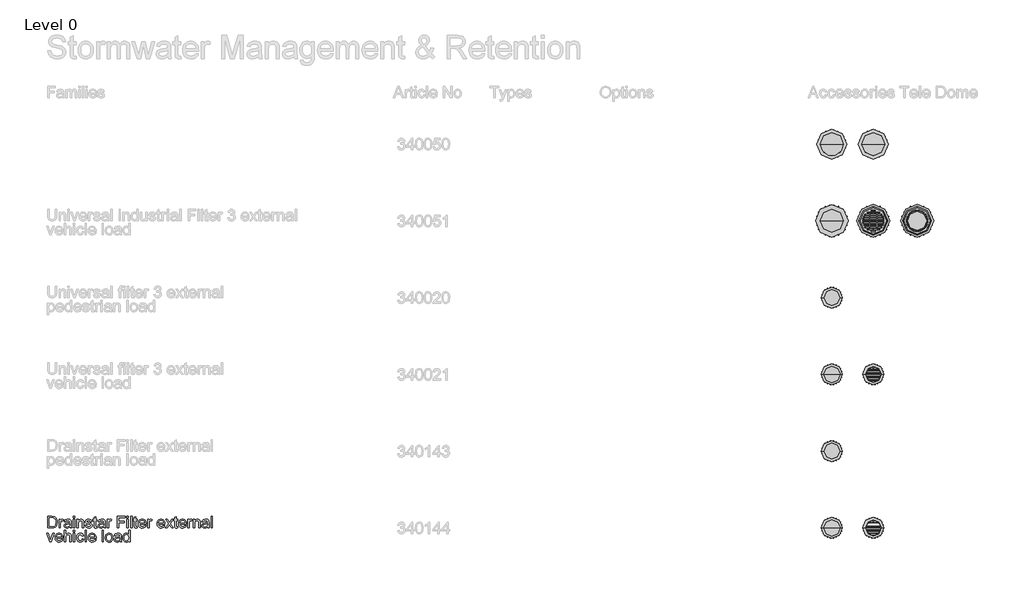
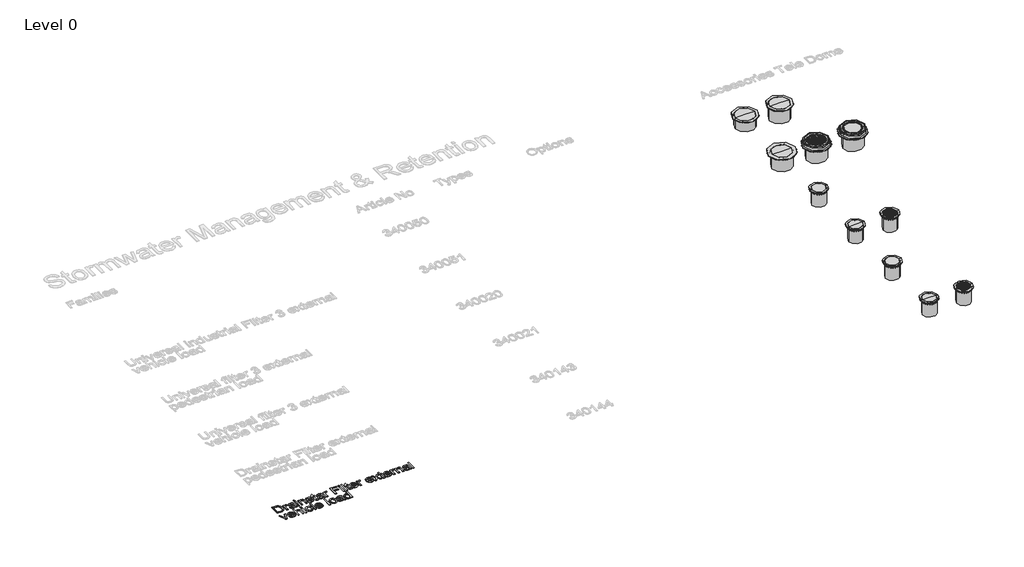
# One storey, part 1 of 10: 12 proxies.
"""IFC4 building model written with IfcOpenShell, lengths in millimetres."""

from ifc_helpers import new_model, si_unit, origin, origin_with_axes, place, context, project, spatial, polyline, outline, extrude, transform, mapped, element, save
from components import specialty_equipment_9f4d5454, proxy_600_mini_f4d43cd5, dome_600_vehicle_504724ee, infiltration_shaft_7ea02f98, tele_dome_400_class_slotted_cast_iron_ae01a707, tele_dome_400_pedestrian_load_5ff1a92a, tele_dome_400_vehicle_8fc43494, ventilation_shaft_vehicle_b4d13a4b

model = new_model("IFC4")

# Units and contexts
model_context = context("Model", 3, world=origin())
ifc_project = project(units=[si_unit("LENGTHUNIT", "METRE", prefix="MILLI")], contexts=[model_context])

# Site, building, storey
site = spatial("IfcSite", under=ifc_project)
building = spatial("IfcBuilding", under=site)
storey = spatial("IfcBuildingStorey", under=building, Name="Level 0", Elevation=0.0)

# Proxies
placement = place(None, origin())
specialty_equipment_shape = specialty_equipment_9f4d5454(model_context)
element("IfcBuildingElementProxy", 1, Name="GRAF Tele Dome 600 Maxi : 600 Maxi", ObjectType="GRAF Tele Dome 600 Maxi : 600 Maxi", at=placement, inside=storey, context=model_context, shape_type="MappedRepresentation", body=[
    mapped(specialty_equipment_shape, transform((6129.8252264, 10427.0720402, 0.0), x_axis=(1.0, 0.0, 0.0), y_axis=(0.0, 1.0, 0.0), z_axis=(0.0, 0.0, 1.0))),
])
element("IfcBuildingElementProxy", 2, Name="300mm Arial", ObjectType="300mm Arial", at=placement, inside=storey, context=model_context, shape_type="SweptSolid", body=[
    extrude(outline(polyline([(-15382.3152979, 427.0720402), (-15382.3152979, 728.4409706), (-15278.3518461, 728.4409706), (-15224.5674984, 724.0999631), (-15200.5448041, 715.7306477), (-15180.2745062, 702.5420782), (-15159.4339912, 679.5862417), (-15144.5899527, 651.0385989), (-15135.7056025, 617.4509727), (-15132.7441524, 579.3751862), (-15134.7491093, 547.0291618), (-15140.7639799, 518.5642924), (-15149.9242416, 494.330066), (-15161.3653716, 474.6759704), (-15174.5355471, 459.1605472), (-15188.8829449, 447.3423381), (-15205.3548612, 438.5775496), (-15224.8985922, 432.2223881), (-15273.348651, 427.0720402), (-15382.3152979, 427.0720402)]), holes=[polyline([(-15344.6441816, 464.7431565), (-15277.9839641, 464.7431565), (-15250.4112086, 466.1043199), (-15229.4971172, 470.18781), (-15213.7149796, 476.7545036), (-15201.5380855, 485.5652774), (-15188.4506835, 501.8716469), (-15178.6190372, 522.9788763), (-15172.4662108, 548.9789363), (-15170.4152687, 579.9637974), (-15174.4343795, 621.0194281), (-15186.4917119, 651.3329045), (-15204.3063975, 672.1550254), (-15225.597568, 684.7365896), (-15247.2658175, 689.2615382), (-15279.0140337, 690.7698543), (-15344.6441816, 690.7698543), (-15344.6441816, 464.7431565)])]), origin_with_axes(), (0.0, 0.0, 1.0), 10.0),
    extrude(outline(polyline([(-15085.655257, 427.0720402), (-15085.655257, 648.3898485), (-15052.6930303, 648.3898485), (-15052.6930303, 615.6483509), (-15040.5161362, 634.6310619), (-15029.2957354, 645.8146745), (-15018.0385463, 651.2777222), (-15005.7512877, 653.098738), (-14986.9893059, 650.1924703), (-14967.9330186, 641.473667), (-14980.5145828, 607.7020998), (-14993.7583346, 613.4962413), (-15007.0020865, 615.4276217), (-15018.2500785, 613.5698177), (-15028.302454, 607.9964054), (-15036.423449, 599.1304493), (-15041.8772996, 587.3950137), (-15046.4574305, 566.3521636), (-15047.9841407, 543.3963271), (-15047.9841407, 427.0720402), (-15085.655257, 427.0720402)])), origin_with_axes(), (0.0, 0.0, 1.0), 10.0),
    extrude(outline(polyline([(-14803.1218847, 455.3253774), (-14821.1205114, 439.8927277), (-14839.6525669, 429.794367), (-14859.1411156, 424.2209547), (-14880.0092217, 422.3631507), (-14911.4907235, 426.8329169), (-14934.7132744, 440.2422156), (-14949.0330811, 460.6044841), (-14953.80635, 485.9331594), (-14952.0037282, 501.5497501), (-14946.5958629, 515.731601), (-14938.2541386, 527.8717069), (-14927.6499401, 537.3630624), (-14901.2728011, 549.7238974), (-14868.6784563, 555.3892801), (-14830.1612114, 561.3489684), (-14803.3426139, 568.3387263), (-14803.1218847, 576.7264358), (-14805.7154528, 593.538643), (-14813.496157, 604.5383147), (-14830.8969754, 612.705295), (-14855.1403989, 615.4276217), (-14877.5812006, 613.6158029), (-14893.2529736, 608.1803464), (-14903.9399455, 598.1279709), (-14911.4263441, 582.465395), (-14949.0974604, 587.1742845), (-14942.558358, 607.7756762), (-14932.800288, 623.962484), (-14918.9127427, 636.3417132), (-14899.9852141, 645.5203689), (-14876.8362395, 651.2041458), (-14850.2843565, 653.098738), (-14824.8177254, 651.424875), (-14804.6302009, 646.4032857), (-14789.4090834, 638.8525078), (-14778.8416731, 629.5910785), (-14771.8335211, 618.1407514), (-14767.2901784, 604.0232799), (-14765.4507684, 571.0610531), (-14765.4507684, 524.1928869), (-14763.5377821, 458.74668), (-14756.0329894, 427.0720402), (-14793.7041057, 427.0720402), (-14803.1218847, 455.3253774)]), holes=[polyline([(-14803.1218847, 530.66761), (-14863.8959903, 519.1161154), (-14896.3063941, 513.0092743), (-14910.9848857, 503.0764604), (-14916.1352337, 488.5819098), (-14913.3301334, 477.379903), (-14904.9148328, 468.2012473), (-14891.0732727, 462.076012), (-14871.9893942, 460.034267), (-14851.7558845, 462.2875442), (-14833.8768195, 469.0473758), (-14819.3822689, 479.0077809), (-14809.3023023, 490.8627782), (-14804.832536, 503.0764604), (-14803.3426139, 519.9990322), (-14803.1218847, 530.66761)])]), origin_with_axes(), (0.0, 0.0, 1.0), 10.0),
    extrude(outline(polyline([(-14713.6529835, 690.7698543), (-14713.6529835, 728.4409706), (-14675.9818672, 728.4409706), (-14675.9818672, 690.7698543), (-14713.6529835, 690.7698543)])), origin_with_axes(), (0.0, 0.0, 1.0), 10.0),
    extrude(outline(polyline([(-14713.6529835, 427.0720402), (-14713.6529835, 648.3898485), (-14675.9818672, 648.3898485), (-14675.9818672, 427.0720402), (-14713.6529835, 427.0720402)])), origin_with_axes(), (0.0, 0.0, 1.0), 10.0),
    extrude(outline(polyline([(-14619.4751927, 427.0720402), (-14619.4751927, 648.3898485), (-14581.8040764, 648.3898485), (-14581.8040764, 617.4877609), (-14568.7166745, 633.0675634), (-14552.9989162, 644.1959938), (-14534.6508017, 650.873052), (-14513.6723309, 653.098738), (-14495.1034872, 651.3053133), (-14478.098142, 645.9250391), (-14463.9162911, 637.6293001), (-14453.8179303, 627.089481), (-14442.5239531, 599.3879667), (-14440.5373903, 562.9676492), (-14440.5373903, 427.0720402), (-14478.2085066, 427.0720402), (-14478.2085066, 557.8908777), (-14482.5495141, 591.2209864), (-14488.5551877, 601.1446033), (-14497.8901933, 608.842534), (-14509.8555552, 613.7813498), (-14523.7522976, 615.4276217), (-14545.8160203, 611.7304077), (-14564.6239873, 600.6387655), (-14572.1402763, 591.5842699), (-14577.5090541, 579.2096393), (-14581.8040764, 544.4999731), (-14581.8040764, 427.0720402), (-14619.4751927, 427.0720402)])), origin_with_axes(), (0.0, 0.0, 1.0), 10.0),
    extrude(outline(polyline([(-14402.866274, 492.9964937), (-14365.1951577, 497.7053833), (-14359.2538635, 481.5921519), (-14347.7575511, 469.7463516), (-14330.6326442, 462.4622881), (-14307.8055664, 460.034267), (-14285.2544001, 462.259953), (-14269.3986861, 468.9370112), (-14260.0176953, 478.6123077), (-14256.8906983, 489.8327086), (-14260.0360894, 499.4344286), (-14269.4722625, 506.7552804), (-14308.2470248, 517.4974346), (-14364.9744285, 535.9283226), (-14379.3310233, 545.1897518), (-14389.7328868, 557.4494193), (-14396.05126, 571.9255758), (-14398.1573845, 587.8364721), (-14396.4651273, 602.4321902), (-14391.3883557, 615.9058683), (-14383.3869223, 627.7240774), (-14372.9206796, 637.3533886), (-14348.9715617, 648.5002131), (-14316.5611579, 653.098738), (-14292.0418229, 651.250131), (-14270.7230613, 645.7043099), (-14253.5797603, 637.0039007), (-14241.5868073, 625.6915294), (-14233.6405562, 610.9302643), (-14228.6373611, 591.883174), (-14266.3084774, 587.1742845), (-14271.0633522, 599.0292818), (-14280.4719342, 607.9596172), (-14294.626194, 613.5606206), (-14313.618102, 615.4276217), (-14335.2495633, 613.6433941), (-14349.6705375, 608.290711), (-14357.7823355, 600.5651891), (-14360.4862681, 591.6624448), (-14355.9981078, 580.6995614), (-14341.9450156, 572.3854283), (-14309.4978236, 564.3656008), (-14254.2051597, 546.6336886), (-14239.6002445, 538.1540086), (-14228.5269965, 526.5473317), (-14221.5464356, 511.7768696), (-14219.219582, 493.8058341), (-14221.9511058, 475.2277934), (-14230.1456773, 457.7533986), (-14243.4905966, 442.7530102), (-14261.6731642, 431.5969887), (-14283.6357194, 424.6716102), (-14308.3206012, 422.3631507), (-14346.3044172, 426.8145228), (-14374.0243256, 440.1686392), (-14392.5287899, 462.2783471), (-14402.866274, 492.9964937)])), origin_with_axes(), (0.0, 0.0, 1.0), 10.0),
    extrude(outline(polyline([(-14096.788454, 458.4891626), (-14092.0795645, 425.9683942), (-14120.2593253, 422.3631507), (-14138.3407254, 423.9266491), (-14151.8236005, 428.6171446), (-14161.3517442, 435.8460258), (-14167.5689499, 445.0246816), (-14170.9902524, 460.7884251), (-14172.1306866, 487.7725694), (-14172.1306866, 610.7187322), (-14200.3840238, 610.7187322), (-14200.3840238, 648.3898485), (-14172.1306866, 648.3898485), (-14172.1306866, 702.1741962), (-14134.4595703, 724.3206923), (-14134.4595703, 648.3898485), (-14096.788454, 648.3898485), (-14096.788454, 610.7187322), (-14134.4595703, 610.7187322), (-14134.4595703, 488.8762154), (-14132.4730075, 469.452046), (-14126.0350726, 462.5726527), (-14113.195991, 460.034267), (-14096.788454, 458.4891626)])), origin_with_axes(), (0.0, 0.0, 1.0), 10.0),
    extrude(outline(polyline([(-13917.8506515, 455.3253774), (-13935.8492782, 439.8927277), (-13954.3813337, 429.794367), (-13973.8698824, 424.2209547), (-13994.7379885, 422.3631507), (-14026.2194903, 426.8329169), (-14049.4420412, 440.2422156), (-14063.7618479, 460.6044841), (-14068.5351168, 485.9331594), (-14066.732495, 501.5497501), (-14061.3246297, 515.731601), (-14052.9829054, 527.8717069), (-14042.3787069, 537.3630624), (-14016.0015679, 549.7238974), (-13983.4072231, 555.3892801), (-13944.8899782, 561.3489684), (-13918.0713807, 568.3387263), (-13917.8506515, 576.7264358), (-13920.4442196, 593.538643), (-13928.2249238, 604.5383147), (-13945.6257422, 612.705295), (-13969.8691657, 615.4276217), (-13992.3099674, 613.6158029), (-14007.9817404, 608.1803464), (-14018.6687123, 598.1279709), (-14026.1551109, 582.465395), (-14063.8262272, 587.1742845), (-14057.2871248, 607.7756762), (-14047.5290548, 623.962484), (-14033.6415095, 636.3417132), (-14014.7139809, 645.5203689), (-13991.5650063, 651.2041458), (-13965.0131233, 653.098738), (-13939.5464922, 651.424875), (-13919.3589677, 646.4032857), (-13904.1378502, 638.8525078), (-13893.5704399, 629.5910785), (-13886.5622879, 618.1407514), (-13882.0189452, 604.0232799), (-13880.1795352, 571.0610531), (-13880.1795352, 524.1928869), (-13878.2665489, 458.74668), (-13870.7617562, 427.0720402), (-13908.4328725, 427.0720402), (-13917.8506515, 455.3253774)]), holes=[polyline([(-13917.8506515, 530.66761), (-13978.6247572, 519.1161154), (-14011.0351609, 513.0092743), (-14025.7136525, 503.0764604), (-14030.8640005, 488.5819098), (-14028.0589003, 477.379903), (-14019.6435996, 468.2012473), (-14005.8020395, 462.076012), (-13986.718161, 460.034267), (-13966.4846513, 462.2875442), (-13948.6055863, 469.0473758), (-13934.1110357, 479.0077809), (-13924.0310691, 490.8627782), (-13919.5613028, 503.0764604), (-13918.0713807, 519.9990322), (-13917.8506515, 530.66761)])]), origin_with_axes(), (0.0, 0.0, 1.0), 10.0),
    extrude(outline(polyline([(-13828.3817503, 427.0720402), (-13828.3817503, 648.3898485), (-13795.4195236, 648.3898485), (-13795.4195236, 615.6483509), (-13783.2426295, 634.6310619), (-13772.0222287, 645.8146745), (-13760.7650396, 651.2777222), (-13748.477781, 653.098738), (-13729.7157992, 650.1924703), (-13710.6595119, 641.473667), (-13723.2410761, 607.7020998), (-13736.4848279, 613.4962413), (-13749.7285798, 615.4276217), (-13760.9765718, 613.5698177), (-13771.0289473, 607.9964054), (-13779.1499423, 599.1304493), (-13784.6037929, 587.3950137), (-13789.1839237, 566.3521636), (-13790.710634, 543.3963271), (-13790.710634, 427.0720402), (-13828.3817503, 427.0720402)])), origin_with_axes(), (0.0, 0.0, 1.0), 10.0),
    extrude(outline(polyline([(-13564.6839362, 427.0720402), (-13564.6839362, 728.4409706), (-13362.201686, 728.4409706), (-13362.201686, 690.7698543), (-13527.0128199, 690.7698543), (-13527.0128199, 601.3009531), (-13385.7461337, 601.3009531), (-13385.7461337, 563.6298368), (-13527.0128199, 563.6298368), (-13527.0128199, 427.0720402), (-13564.6839362, 427.0720402)])), origin_with_axes(), (0.0, 0.0, 1.0), 10.0),
    extrude(outline(polyline([(-13315.1127907, 427.0720402), (-13315.1127907, 648.3898485), (-13277.4416743, 648.3898485), (-13277.4416743, 427.0720402), (-13315.1127907, 427.0720402)])), origin_with_axes(), (0.0, 0.0, 1.0), 10.0),
    extrude(outline(polyline([(-13315.1127907, 690.7698543), (-13315.1127907, 728.4409706), (-13277.4416743, 728.4409706), (-13277.4416743, 690.7698543), (-13315.1127907, 690.7698543)])), origin_with_axes(), (0.0, 0.0, 1.0), 10.0),
    extrude(outline(polyline([(-13220.9349999, 427.0720402), (-13220.9349999, 728.4409706), (-13183.2638836, 728.4409706), (-13183.2638836, 427.0720402), (-13220.9349999, 427.0720402)])), origin_with_axes(), (0.0, 0.0, 1.0), 10.0),
    extrude(outline(polyline([(-13046.706087, 458.4891626), (-13041.9971974, 425.9683942), (-13070.1769583, 422.3631507), (-13088.2583583, 423.9266491), (-13101.7412334, 428.6171446), (-13111.2693771, 435.8460258), (-13117.4865828, 445.0246816), (-13120.9078854, 460.7884251), (-13122.0483196, 487.7725694), (-13122.0483196, 610.7187322), (-13150.3016568, 610.7187322), (-13150.3016568, 648.3898485), (-13122.0483196, 648.3898485), (-13122.0483196, 702.1741962), (-13084.3772033, 724.3206923), (-13084.3772033, 648.3898485), (-13046.706087, 648.3898485), (-13046.706087, 610.7187322), (-13084.3772033, 610.7187322), (-13084.3772033, 488.8762154), (-13082.3906405, 469.452046), (-13075.9527056, 462.5726527), (-13063.113624, 460.034267), (-13046.706087, 458.4891626)])), origin_with_axes(), (0.0, 0.0, 1.0), 10.0),
    extrude(outline(polyline([(-12854.0830743, 492.9964937), (-12817.147722, 488.2876042), (-12830.4558532, 460.4573313), (-12851.6918413, 439.6536044), (-12880.3774399, 426.6857641), (-12916.0344023, 422.3631507), (-12939.4087046, 424.2278525), (-12960.235424, 429.8219581), (-12978.5145606, 439.1454674), (-12994.2461145, 452.1983805), (-13006.8966566, 468.6174138), (-13015.9327581, 488.0392838), (-13021.354419, 510.4639907), (-13023.1616393, 535.8915344), (-13021.3360249, 562.1813015), (-13015.8591817, 585.3532686), (-13006.7311097, 605.4074359), (-12993.9518089, 622.3438032), (-12978.2616418, 635.7990872), (-12960.4009709, 645.4100043), (-12940.3697963, 651.1765546), (-12918.1681179, 653.098738), (-12896.6815101, 651.1811531), (-12877.2504429, 645.4283984), (-12859.8749165, 635.8404739), (-12844.5549306, 622.4173796), (-12832.049242, 605.5178005), (-12823.1166074, 585.5004214), (-12817.7570265, 562.3652424), (-12815.9704996, 536.1122636), (-12816.1912288, 525.9587205), (-12985.490523, 525.9587205), (-12978.9698146, 497.7605656), (-12963.8222735, 477.0304151), (-12941.9608859, 464.283304), (-12915.2986383, 460.034267), (-12895.2490696, 462.0024356), (-12878.363286, 467.9069417), (-12864.6412876, 478.115667), (-12854.0830743, 492.9964937)]), holes=[polyline([(-12985.490523, 563.6298368), (-12853.6416159, 563.6298368), (-12858.7367815, 583.5322527), (-12868.7247777, 597.769286), (-12890.6873328, 611.0130378), (-12918.3152707, 615.4276217), (-12943.7083254, 611.9051516), (-12964.7051902, 601.3377413), (-12979.3009084, 584.865825), (-12985.490523, 563.6298368)])]), origin_with_axes(), (0.0, 0.0, 1.0), 10.0),
    extrude(outline(polyline([(-12778.2993833, 427.0720402), (-12778.2993833, 648.3898485), (-12745.3371565, 648.3898485), (-12745.3371565, 615.6483509), (-12733.1602625, 634.6310619), (-12721.9398616, 645.8146745), (-12710.6826726, 651.2777222), (-12698.3954139, 653.098738), (-12679.6334322, 650.1924703), (-12660.5771448, 641.473667), (-12673.1587091, 607.7020998), (-12686.4024609, 613.4962413), (-12699.6462127, 615.4276217), (-12710.8942047, 613.5698177), (-12720.9465802, 607.9964054), (-12729.0675753, 599.1304493), (-12734.5214259, 587.3950137), (-12739.1015567, 566.3521636), (-12740.628267, 543.3963271), (-12740.628267, 427.0720402), (-12778.2993833, 427.0720402)])), origin_with_axes(), (0.0, 0.0, 1.0), 10.0),
    extrude(outline(polyline([(-12364.3585623, 492.9964937), (-12327.42321, 488.2876042), (-12340.7313412, 460.4573313), (-12361.9673293, 439.6536044), (-12390.6529279, 426.6857641), (-12426.3098903, 422.3631507), (-12449.6841926, 424.2278525), (-12470.510912, 429.8219581), (-12488.7900487, 439.1454674), (-12504.5216025, 452.1983805), (-12517.1721446, 468.6174138), (-12526.2082461, 488.0392838), (-12531.629907, 510.4639907), (-12533.4371273, 535.8915344), (-12531.6115129, 562.1813015), (-12526.1346697, 585.3532686), (-12517.0065977, 605.4074359), (-12504.2272969, 622.3438032), (-12488.5371298, 635.7990872), (-12470.6764589, 645.4100043), (-12450.6452843, 651.1765546), (-12428.4436059, 653.098738), (-12406.9569981, 651.1811531), (-12387.525931, 645.4283984), (-12370.1504045, 635.8404739), (-12354.8304186, 622.4173796), (-12342.3247301, 605.5178005), (-12333.3920954, 585.5004214), (-12328.0325146, 562.3652424), (-12326.2459876, 536.1122636), (-12326.4667168, 525.9587205), (-12495.766011, 525.9587205), (-12489.2453026, 497.7605656), (-12474.0977615, 477.0304151), (-12452.2363739, 464.283304), (-12425.5741263, 460.034267), (-12405.5245576, 462.0024356), (-12388.638774, 467.9069417), (-12374.9167756, 478.115667), (-12364.3585623, 492.9964937)]), holes=[polyline([(-12495.766011, 563.6298368), (-12363.9171039, 563.6298368), (-12369.0122696, 583.5322527), (-12379.0002657, 597.769286), (-12400.9628208, 611.0130378), (-12428.5907587, 615.4276217), (-12453.9838134, 611.9051516), (-12474.9806783, 601.3377413), (-12489.5763964, 584.865825), (-12495.766011, 563.6298368)])]), origin_with_axes(), (0.0, 0.0, 1.0), 10.0),
    extrude(outline(polyline([(-12312.119319, 427.0720402), (-12231.6267385, 538.3195555), (-12307.4104295, 648.3898485), (-12262.0873677, 648.3898485), (-12225.5198973, 595.4148412), (-12208.4501728, 570.3988655), (-12193.6613166, 590.8531045), (-12152.0170747, 648.3898485), (-12106.6940129, 648.3898485), (-12186.3036766, 538.3195555), (-12109.6370689, 427.0720402), (-12154.9601307, 427.0720402), (-12201.0925329, 493.9529869), (-12209.5538187, 506.1666692), (-12266.7962572, 427.0720402), (-12312.119319, 427.0720402)])), origin_with_axes(), (0.0, 0.0, 1.0), 10.0),
    extrude(outline(polyline([(-11996.6237199, 458.4891626), (-11991.9148304, 425.9683942), (-12020.0945912, 422.3631507), (-12038.1759913, 423.9266491), (-12051.6588664, 428.6171446), (-12061.1870101, 435.8460258), (-12067.4042158, 445.0246816), (-12070.8255184, 460.7884251), (-12071.9659525, 487.7725694), (-12071.9659525, 610.7187322), (-12100.2192898, 610.7187322), (-12100.2192898, 648.3898485), (-12071.9659525, 648.3898485), (-12071.9659525, 702.1741962), (-12034.2948362, 724.3206923), (-12034.2948362, 648.3898485), (-11996.6237199, 648.3898485), (-11996.6237199, 610.7187322), (-12034.2948362, 610.7187322), (-12034.2948362, 488.8762154), (-12032.3082735, 469.452046), (-12025.8703386, 462.5726527), (-12013.0312569, 460.034267), (-11996.6237199, 458.4891626)])), origin_with_axes(), (0.0, 0.0, 1.0), 10.0),
    extrude(outline(polyline([(-11804.0007073, 492.9964937), (-11767.0653549, 488.2876042), (-11780.3734861, 460.4573313), (-11801.6094743, 439.6536044), (-11830.2950729, 426.6857641), (-11865.9520352, 422.3631507), (-11889.3263375, 424.2278525), (-11910.153057, 429.8219581), (-11928.4321936, 439.1454674), (-11944.1637474, 452.1983805), (-11956.8142895, 468.6174138), (-11965.850391, 488.0392838), (-11971.2720519, 510.4639907), (-11973.0792722, 535.8915344), (-11971.2536578, 562.1813015), (-11965.7768146, 585.3532686), (-11956.6487426, 605.4074359), (-11943.8694418, 622.3438032), (-11928.1792747, 635.7990872), (-11910.3186039, 645.4100043), (-11890.2874292, 651.1765546), (-11868.0857508, 653.098738), (-11846.599143, 651.1811531), (-11827.1680759, 645.4283984), (-11809.7925494, 635.8404739), (-11794.4725636, 622.4173796), (-11781.966875, 605.5178005), (-11773.0342403, 585.5004214), (-11767.6746595, 562.3652424), (-11765.8881326, 536.1122636), (-11766.1088618, 525.9587205), (-11935.4081559, 525.9587205), (-11928.8874476, 497.7605656), (-11913.7399064, 477.0304151), (-11891.8785189, 464.283304), (-11865.2162713, 460.034267), (-11845.1667025, 462.0024356), (-11828.2809189, 467.9069417), (-11814.5589205, 478.115667), (-11804.0007073, 492.9964937)]), holes=[polyline([(-11935.4081559, 563.6298368), (-11803.5592489, 563.6298368), (-11808.6544145, 583.5322527), (-11818.6424107, 597.769286), (-11840.6049658, 611.0130378), (-11868.2329036, 615.4276217), (-11893.6259583, 611.9051516), (-11914.6228232, 601.3377413), (-11929.2185414, 584.865825), (-11935.4081559, 563.6298368)])]), origin_with_axes(), (0.0, 0.0, 1.0), 10.0),
    extrude(outline(polyline([(-11728.2170163, 427.0720402), (-11728.2170163, 648.3898485), (-11695.2547895, 648.3898485), (-11695.2547895, 615.6483509), (-11683.0778954, 634.6310619), (-11671.8574946, 645.8146745), (-11660.6003055, 651.2777222), (-11648.3130469, 653.098738), (-11629.5510651, 650.1924703), (-11610.4947778, 641.473667), (-11623.076342, 607.7020998), (-11636.3200939, 613.4962413), (-11649.5638457, 615.4276217), (-11660.8118377, 613.5698177), (-11670.8642132, 607.9964054), (-11678.9852083, 599.1304493), (-11684.4390588, 587.3950137), (-11689.0191897, 566.3521636), (-11690.5458999, 543.3963271), (-11690.5458999, 427.0720402), (-11728.2170163, 427.0720402)])), origin_with_axes(), (0.0, 0.0, 1.0), 10.0),
    extrude(outline(polyline([(-11586.9503301, 427.0720402), (-11586.9503301, 648.3898485), (-11549.2792138, 648.3898485), (-11549.2792138, 617.4877609), (-11536.1918118, 633.0675634), (-11520.4740536, 644.1959938), (-11502.1259391, 650.873052), (-11481.1474683, 653.098738), (-11462.5786246, 651.3053133), (-11445.5732794, 645.9250391), (-11431.3914284, 637.6293001), (-11421.2930677, 627.089481), (-11409.9990904, 599.3879667), (-11408.0125277, 562.9676492), (-11408.0125277, 427.0720402), (-11445.683644, 427.0720402), (-11445.683644, 557.8908777), (-11450.0246515, 591.2209864), (-11456.0303251, 601.1446033), (-11465.3653307, 608.842534), (-11477.3306926, 613.7813498), (-11491.227435, 615.4276217), (-11513.2911576, 611.7304077), (-11532.0991246, 600.6387655), (-11539.6154136, 591.5842699), (-11544.9841915, 579.2096393), (-11549.2792138, 544.4999731), (-11549.2792138, 427.0720402), (-11586.9503301, 427.0720402)])), origin_with_axes(), (0.0, 0.0, 1.0), 10.0),
    extrude(outline(polyline([(-11214.9480566, 455.3253774), (-11232.9466832, 439.8927277), (-11251.4787387, 429.794367), (-11270.9672874, 424.2209547), (-11291.8353936, 422.3631507), (-11323.3168953, 426.8329169), (-11346.5394463, 440.2422156), (-11360.8592529, 460.6044841), (-11365.6325218, 485.9331594), (-11363.8299, 501.5497501), (-11358.4220347, 515.731601), (-11350.0803105, 527.8717069), (-11339.476112, 537.3630624), (-11313.0989729, 549.7238974), (-11280.5046281, 555.3892801), (-11241.9873832, 561.3489684), (-11215.1687858, 568.3387263), (-11214.9480566, 576.7264358), (-11217.5416247, 593.538643), (-11225.3223288, 604.5383147), (-11242.7231472, 612.705295), (-11266.9665707, 615.4276217), (-11289.4073724, 613.6158029), (-11305.0791454, 608.1803464), (-11315.7661174, 598.1279709), (-11323.252516, 582.465395), (-11360.9236323, 587.1742845), (-11354.3845298, 607.7756762), (-11344.6264599, 623.962484), (-11330.7389146, 636.3417132), (-11311.8113859, 645.5203689), (-11288.6624114, 651.2041458), (-11262.1105284, 653.098738), (-11236.6438973, 651.424875), (-11216.4563728, 646.4032857), (-11201.2352552, 638.8525078), (-11190.6678449, 629.5910785), (-11183.6596929, 618.1407514), (-11179.1163503, 604.0232799), (-11177.2769403, 571.0610531), (-11177.2769403, 524.1928869), (-11175.3639539, 458.74668), (-11167.8591612, 427.0720402), (-11205.5302775, 427.0720402), (-11214.9480566, 455.3253774)]), holes=[polyline([(-11214.9480566, 530.66761), (-11275.7221622, 519.1161154), (-11308.132566, 513.0092743), (-11322.8110576, 503.0764604), (-11327.9614055, 488.5819098), (-11325.1563053, 477.379903), (-11316.7410047, 468.2012473), (-11302.8994446, 462.076012), (-11283.8155661, 460.034267), (-11263.5820563, 462.2875442), (-11245.7029914, 469.0473758), (-11231.2084408, 479.0077809), (-11221.1284741, 490.8627782), (-11216.6587079, 503.0764604), (-11215.1687858, 519.9990322), (-11214.9480566, 530.66761)])]), origin_with_axes(), (0.0, 0.0, 1.0), 10.0),
    extrude(outline(polyline([(-11125.4791554, 427.0720402), (-11125.4791554, 728.4409706), (-11087.8080391, 728.4409706), (-11087.8080391, 427.0720402), (-11125.4791554, 427.0720402)])), origin_with_axes(), (0.0, 0.0, 1.0), 10.0),
    extrude(outline(polyline([(-15332.724805, 61.1475867), (-15410.5686352, 282.465395), (-15370.6902269, 282.465395), (-15323.5277551, 149.8807239), (-15309.3275101, 105.2934261), (-15295.4215707, 147.3791263), (-15247.9647933, 282.465395), (-15208.086385, 282.465395), (-15284.973722, 61.1475867), (-15332.724805, 61.1475867)])), origin_with_axes(), (0.0, 0.0, 1.0), 10.0),
    extrude(outline(polyline([(-15020.1722619, 127.0720402), (-14983.2369096, 122.3631507), (-14996.5450408, 94.5328777), (-15017.7810289, 73.7291509), (-15046.4666275, 60.7613106), (-15082.1235899, 56.4386971), (-15105.4978922, 58.303399), (-15126.3246116, 63.8975046), (-15144.6037482, 73.2210139), (-15160.3353021, 86.2739269), (-15172.9858442, 102.6929602), (-15182.0219457, 122.1148303), (-15187.4436066, 144.5395372), (-15189.2508269, 169.9670808), (-15187.4252125, 196.2568479), (-15181.9483693, 219.4288151), (-15172.8202973, 239.4829823), (-15160.0409965, 256.4193497), (-15144.3508294, 269.8746337), (-15126.4901585, 279.4855508), (-15106.4589839, 285.2521011), (-15084.2573055, 287.1742845), (-15062.7706977, 285.2566996), (-15043.3396305, 279.5039449), (-15025.9641041, 269.9160204), (-15010.6441182, 256.4929261), (-14998.1384296, 239.5933469), (-14989.205795, 219.5759679), (-14983.8462141, 196.4407889), (-14982.0596872, 170.18781), (-14982.2804164, 160.034267), (-15151.5797106, 160.034267), (-15145.0590022, 131.836112), (-15129.9114611, 111.1059616), (-15108.0500735, 98.3588505), (-15081.3878259, 94.1098134), (-15061.3382572, 96.0779821), (-15044.4524736, 101.9824881), (-15030.7304752, 112.1912135), (-15020.1722619, 127.0720402)]), holes=[polyline([(-15151.5797106, 197.7053833), (-15019.7308035, 197.7053833), (-15024.8259691, 217.6077992), (-15034.8139653, 231.8448324), (-15056.7765204, 245.0885843), (-15084.4044583, 249.5031682), (-15109.797513, 245.9806981), (-15130.7943778, 235.4132878), (-15145.390096, 218.9413714), (-15151.5797106, 197.7053833)])]), origin_with_axes(), (0.0, 0.0, 1.0), 10.0),
    extrude(outline(polyline([(-14944.3885709, 61.1475867), (-14944.3885709, 362.5165171), (-14906.7174546, 362.5165171), (-14906.7174546, 251.7104602), (-14892.880493, 267.2258833), (-14877.3420773, 278.3083284), (-14860.1022073, 284.9577955), (-14841.160883, 287.1742845), (-14818.4073816, 284.7554604), (-14798.8544536, 277.498988), (-14783.4585921, 265.9750845), (-14773.1762903, 250.753967), (-14767.3821489, 229.8398755), (-14765.4507684, 201.2370504), (-14765.4507684, 61.1475867), (-14803.1218847, 61.1475867), (-14803.1218847, 197.3375013), (-14806.120123, 220.9187372), (-14815.1148378, 237.0687568), (-14829.6093884, 246.3945653), (-14849.1071341, 249.5031682), (-14865.0272275, 247.4062408), (-14879.9724335, 241.1154587), (-14892.3516627, 231.2378271), (-14900.5738253, 218.3803514), (-14905.1815473, 201.2922327), (-14906.7174546, 178.7226723), (-14906.7174546, 61.1475867), (-14944.3885709, 61.1475867)])), origin_with_axes(), (0.0, 0.0, 1.0), 10.0),
    extrude(outline(polyline([(-14713.6529835, 324.8454008), (-14713.6529835, 362.5165171), (-14675.9818672, 362.5165171), (-14675.9818672, 324.8454008), (-14713.6529835, 324.8454008)])), origin_with_axes(), (0.0, 0.0, 1.0), 10.0),
    extrude(outline(polyline([(-14713.6529835, 61.1475867), (-14713.6529835, 282.465395), (-14675.9818672, 282.465395), (-14675.9818672, 61.1475867), (-14713.6529835, 61.1475867)])), origin_with_axes(), (0.0, 0.0, 1.0), 10.0),
    extrude(outline(polyline([(-14478.2085066, 141.1987088), (-14440.5373903, 136.4898193), (-14451.0404213, 102.9849666), (-14470.7772903, 77.6654882), (-14497.8901933, 61.7453949), (-14530.5213263, 56.4386971), (-14551.6492492, 58.2896034), (-14570.5928726, 63.8423223), (-14587.3521968, 73.0968537), (-14601.9272216, 86.0531977), (-14613.7247373, 102.4676325), (-14622.1515343, 122.0964362), (-14627.2076124, 144.9396089), (-14628.8929718, 170.9971504), (-14626.0142952, 204.5203972), (-14617.3782654, 233.5738778), (-14602.8469266, 257.035552), (-14582.282323, 273.7833799), (-14557.6802146, 283.8265583), (-14531.0363611, 287.1742845), (-14499.2053715, 282.5757596), (-14473.7571345, 268.7801847), (-14455.5009904, 246.523324), (-14445.2462798, 216.5409414), (-14482.9173961, 211.8320519), (-14489.7508042, 228.26718), (-14500.3917909, 240.0486009), (-14514.2517451, 247.1395264), (-14530.7420555, 249.5031682), (-14555.0866465, 244.849461), (-14574.4096483, 230.8883392), (-14587.0188037, 206.865645), (-14591.2218555, 172.02722), (-14587.1107742, 136.7197455), (-14574.7775303, 112.6142778), (-14555.8040164, 98.7359295), (-14531.7721251, 94.1098134), (-14512.2651823, 96.9976871), (-14496.2715126, 105.6613081), (-14484.6372445, 120.3214056), (-14478.2085066, 141.1987088)])), origin_with_axes(), (0.0, 0.0, 1.0), 10.0),
    extrude(outline(polyline([(-14407.5751635, 61.1475867), (-14407.5751635, 362.5165171), (-14369.9040472, 362.5165171), (-14369.9040472, 61.1475867), (-14407.5751635, 61.1475867)])), origin_with_axes(), (0.0, 0.0, 1.0), 10.0),
    extrude(outline(polyline([(-14158.4454764, 127.0720402), (-14121.5101241, 122.3631507), (-14134.8182553, 94.5328777), (-14156.0542434, 73.7291509), (-14184.739842, 60.7613106), (-14220.3968044, 56.4386971), (-14243.7711066, 58.303399), (-14264.5978261, 63.8975046), (-14282.8769627, 73.2210139), (-14298.6085166, 86.2739269), (-14311.2590587, 102.6929602), (-14320.2951602, 122.1148303), (-14325.7168211, 144.5395372), (-14327.5240414, 169.9670808), (-14325.698427, 196.2568479), (-14320.2215838, 219.4288151), (-14311.0935118, 239.4829823), (-14298.314211, 256.4193497), (-14282.6240439, 269.8746337), (-14264.763373, 279.4855508), (-14244.7321984, 285.2521011), (-14222.53052, 287.1742845), (-14201.0439122, 285.2566996), (-14181.612845, 279.5039449), (-14164.2373186, 269.9160204), (-14148.9173327, 256.4929261), (-14136.4116441, 239.5933469), (-14127.4790094, 219.5759679), (-14122.1194286, 196.4407889), (-14120.3329017, 170.18781), (-14120.5536309, 160.034267), (-14289.8529251, 160.034267), (-14283.3322167, 131.836112), (-14268.1846756, 111.1059616), (-14246.323288, 98.3588505), (-14219.6610404, 94.1098134), (-14199.6114717, 96.0779821), (-14182.7256881, 101.9824881), (-14169.0036897, 112.1912135), (-14158.4454764, 127.0720402)]), holes=[polyline([(-14289.8529251, 197.7053833), (-14158.004018, 197.7053833), (-14163.0991836, 217.6077992), (-14173.0871798, 231.8448324), (-14195.0497349, 245.0885843), (-14222.6776728, 249.5031682), (-14248.0707275, 245.9806981), (-14269.0675923, 235.4132878), (-14283.6633105, 218.9413714), (-14289.8529251, 197.7053833)])]), origin_with_axes(), (0.0, 0.0, 1.0), 10.0),
    extrude(outline(polyline([(-13964.9395469, 61.1475867), (-13964.9395469, 362.5165171), (-13927.2684306, 362.5165171), (-13927.2684306, 61.1475867), (-13964.9395469, 61.1475867)])), origin_with_axes(), (0.0, 0.0, 1.0), 10.0),
    extrude(outline(polyline([(-13880.1795352, 171.8064908), (-13878.1423887, 200.4690968), (-13872.030949, 225.1677742), (-13861.8452163, 245.9025232), (-13847.5851905, 262.6733436), (-13833.2285956, 273.3925053), (-13817.3820787, 281.0490493), (-13800.0456396, 285.6429757), (-13781.2192785, 287.1742845), (-13760.4362451, 285.3095826), (-13741.6443729, 279.715477), (-13724.843662, 270.3919677), (-13710.0341125, 257.3390547), (-13697.9468897, 240.9981963), (-13689.3131591, 221.810851), (-13684.1329207, 199.7770188), (-13682.4061746, 174.8966996), (-13685.4595952, 136.8393072), (-13694.6198569, 107.8686), (-13709.6202452, 86.1727594), (-13730.1940458, 69.9399663), (-13754.6306073, 59.8140144), (-13781.2192785, 56.4386971), (-13802.3058147, 58.2965012), (-13821.2724308, 63.8699134), (-13838.1191269, 73.1589338), (-13852.845903, 86.1635623), (-13864.8043671, 102.6630698), (-13873.3461272, 122.4367271), (-13878.4711832, 145.4845341), (-13880.1795352, 171.8064908)]), holes=[polyline([(-13842.5084189, 171.8800672), (-13838.1490173, 137.7866033), (-13825.0708124, 113.4971946), (-13805.3891256, 98.9566587), (-13781.2192785, 94.1098134), (-13757.1597961, 98.9842499), (-13737.5148975, 113.6075592), (-13724.4366926, 138.2188647), (-13720.0772909, 173.0572896), (-13724.4642837, 206.1574721), (-13737.6252621, 230.115787), (-13757.2977518, 244.6563229), (-13781.2192785, 249.5031682), (-13805.3891256, 244.674717), (-13825.0708124, 230.1893634), (-13838.1490173, 205.955137), (-13842.5084189, 171.8800672)])]), origin_with_axes(), (0.0, 0.0, 1.0), 10.0),
    extrude(outline(polyline([(-13498.7594826, 89.4009239), (-13516.7581093, 73.9682742), (-13535.2901648, 63.8699134), (-13554.7787135, 58.2965012), (-13575.6468196, 56.4386971), (-13607.1283214, 60.9084634), (-13630.3508723, 74.3177621), (-13644.670679, 94.6800305), (-13649.4439479, 120.0087059), (-13647.6413261, 135.6252966), (-13642.2334608, 149.8071475), (-13633.8917365, 161.9472533), (-13623.287538, 171.4386088), (-13596.910399, 183.7994439), (-13564.3160542, 189.4648266), (-13525.7988093, 195.4245149), (-13498.9802118, 202.4142728), (-13498.7594826, 210.8019823), (-13501.3530507, 227.6141895), (-13509.1337549, 238.6138611), (-13526.5345733, 246.7808414), (-13550.7779968, 249.5031682), (-13573.2187985, 247.6913494), (-13588.8905715, 242.2558929), (-13599.5775434, 232.2035174), (-13607.063942, 216.5409414), (-13644.7350583, 221.249831), (-13638.1959559, 241.8512227), (-13628.4378859, 258.0380305), (-13614.5503406, 270.4172596), (-13595.622812, 279.5959154), (-13572.4738374, 285.2796922), (-13545.9219544, 287.1742845), (-13520.4553233, 285.5004214), (-13500.2677988, 280.4788322), (-13485.0466813, 272.9280542), (-13474.479271, 263.666625), (-13467.471119, 252.2162979), (-13462.9277763, 238.0988263), (-13461.0883663, 205.1365996), (-13461.0883663, 158.2684334), (-13459.17538, 92.8222264), (-13451.6705873, 61.1475867), (-13489.3417036, 61.1475867), (-13498.7594826, 89.4009239)]), holes=[polyline([(-13498.7594826, 164.7431565), (-13559.5335882, 153.1916619), (-13591.943992, 147.0848207), (-13606.6224836, 137.1520069), (-13611.7728316, 122.6574563), (-13608.9677313, 111.4554495), (-13600.5524307, 102.2767937), (-13586.7108706, 96.1515585), (-13567.6269921, 94.1098134), (-13547.3934824, 96.3630906), (-13529.5144174, 103.1229223), (-13515.0198668, 113.0833273), (-13504.9399002, 124.9383246), (-13500.4701339, 137.1520069), (-13498.9802118, 154.0745786), (-13498.7594826, 164.7431565)])]), origin_with_axes(), (0.0, 0.0, 1.0), 10.0),
    extrude(outline(polyline([(-13272.7327848, 61.1475867), (-13272.7327848, 96.6849874), (-13284.0037694, 79.0772354), (-13297.65679, 66.5002697), (-13313.6918464, 58.9540903), (-13332.1089388, 56.4386971), (-13356.4627269, 60.0807289), (-13378.7563758, 71.0068241), (-13397.6287222, 88.4536278), (-13411.7186026, 111.6577846), (-13420.4925882, 139.6811956), (-13423.41725, 171.5857616), (-13420.7225144, 203.0948545), (-13412.6383076, 231.5505268), (-13399.1738265, 255.3340978), (-13380.3382684, 272.8268867), (-13357.5571758, 283.587435), (-13332.2560916, 287.1742845), (-13313.8252037, 284.6083076), (-13297.5280313, 276.9103768), (-13283.7140624, 265.1105618), (-13272.7327848, 250.2389322), (-13272.7327848, 362.5165171), (-13235.0616685, 362.5165171), (-13235.0616685, 61.1475867), (-13272.7327848, 61.1475867)]), holes=[polyline([(-13385.7461337, 171.7329144), (-13381.4970967, 137.6578446), (-13368.7499855, 113.4236182), (-13350.2271271, 98.9382646), (-13328.6508481, 94.1098134), (-13307.0837661, 98.7175354), (-13289.0299572, 112.5407014), (-13276.8070779, 135.8368287), (-13272.7327848, 168.8634348), (-13276.8806543, 204.9710527), (-13289.3242628, 230.0054224), (-13307.8379242, 244.6287318), (-13330.1959525, 249.5031682), (-13351.9929607, 244.8218698), (-13369.8536315, 230.7779746), (-13381.7730082, 206.6541128), (-13385.7461337, 171.7329144)])]), origin_with_axes(), (0.0, 0.0, 1.0), 10.0),
])
proxy_600_mini_shape = proxy_600_mini_f4d43cd5(model_context)
element("IfcBuildingElementProxy", 3, Name="GRAF Tele Dome 600 Mini : 600 Mini", ObjectType="GRAF Tele Dome 600 Mini : 600 Mini", at=placement, inside=storey, context=model_context, shape_type="MappedRepresentation", body=[
    mapped(proxy_600_mini_shape, transform((5049.8252264, 10427.0720402, 0.0), x_axis=(1.0, 0.0, 0.0), y_axis=(0.0, 1.0, 0.0), z_axis=(0.0, 0.0, 1.0))),
])
dome_600_vehicle_shape = dome_600_vehicle_504724ee(model_context)
element("IfcBuildingElementProxy", 4, Name="GRAF Tele Dome 600 Vehicle : Dome 600 Vehicle", ObjectType="GRAF Tele Dome 600 Vehicle : Dome 600 Vehicle", at=placement, inside=storey, context=model_context, shape_type="MappedRepresentation", body=[
    mapped(dome_600_vehicle_shape, transform((5049.8252264, 8427.0720402, 0.0), x_axis=(1.0, 0.0, 0.0), y_axis=(0.0, 1.0, 0.0), z_axis=(0.0, 0.0, 1.0))),
])
infiltration_shaft_shape = infiltration_shaft_7ea02f98(model_context)
element("IfcBuildingElementProxy", 5, Name="GRAF Tele Infiltration Shaft : Infiltration Shaft", ObjectType="GRAF Tele Infiltration Shaft : Infiltration Shaft", at=placement, inside=storey, context=model_context, shape_type="MappedRepresentation", body=[
    mapped(infiltration_shaft_shape, transform((6129.8252264, 8427.0720402, 0.0), x_axis=(1.0, 0.0, 0.0), y_axis=(0.0, 1.0, 0.0), z_axis=(0.0, 0.0, 1.0))),
])
tele_dome_400_class_slotted_cast_iron_shape = tele_dome_400_class_slotted_cast_iron_ae01a707(model_context)
element("IfcBuildingElementProxy", 6, Name="GRAF Tele Dome 400 Class Slotted Cast Iron : Tele Dome 400 Class Slotted Cast Iron", ObjectType="GRAF Tele Dome 400 Class Slotted Cast Iron : Tele Dome 400 Class Slotted Cast Iron", at=placement, inside=storey, context=model_context, shape_type="MappedRepresentation", body=[
    mapped(tele_dome_400_class_slotted_cast_iron_shape, transform((6129.8252264, 4427.0720402, 0.0), x_axis=(1.0, 0.0, 0.0), y_axis=(0.0, 1.0, 0.0), z_axis=(0.0, 0.0, 1.0))),
])
element("IfcBuildingElementProxy", 7, Name="GRAF Tele Dome 400 Class Slotted Cast Iron : Tele Dome 400 Class Slotted Cast Iron", ObjectType="GRAF Tele Dome 400 Class Slotted Cast Iron : Tele Dome 400 Class Slotted Cast Iron", at=placement, inside=storey, context=model_context, shape_type="MappedRepresentation", body=[
    mapped(tele_dome_400_class_slotted_cast_iron_shape, transform((6129.8252264, 427.0720402, 0.0), x_axis=(1.0, 0.0, 0.0), y_axis=(0.0, 1.0, 0.0), z_axis=(0.0, 0.0, 1.0))),
])
tele_dome_400_pedestrian_load_shape = tele_dome_400_pedestrian_load_5ff1a92a(model_context)
element("IfcBuildingElementProxy", 8, Name="GRAF Tele Dome 400 Pedestrian Load : Tele Dome 400 Pedestrian Load", ObjectType="GRAF Tele Dome 400 Pedestrian Load : Tele Dome 400 Pedestrian Load", at=placement, inside=storey, context=model_context, shape_type="MappedRepresentation", body=[
    mapped(tele_dome_400_pedestrian_load_shape, transform((5049.8252264, 6427.0720402, 0.0), x_axis=(1.0, 0.0, 0.0), y_axis=(0.0, 1.0, 0.0), z_axis=(0.0, 0.0, 1.0))),
])
element("IfcBuildingElementProxy", 9, Name="GRAF Tele Dome 400 Pedestrian Load : Tele Dome 400 Pedestrian Load", ObjectType="GRAF Tele Dome 400 Pedestrian Load : Tele Dome 400 Pedestrian Load", at=placement, inside=storey, context=model_context, shape_type="MappedRepresentation", body=[
    mapped(tele_dome_400_pedestrian_load_shape, transform((5049.8252264, 2426.7800402, 0.0), x_axis=(1.0, 0.0, 0.0), y_axis=(0.0, 1.0, 0.0), z_axis=(0.0, 0.0, 1.0))),
])
tele_dome_400_vehicle_shape = tele_dome_400_vehicle_8fc43494(model_context)
element("IfcBuildingElementProxy", 10, Name="GRAF Tele Dome 400 Vehicle : Tele Dome 400 Vehicle", ObjectType="GRAF Tele Dome 400 Vehicle : Tele Dome 400 Vehicle", at=placement, inside=storey, context=model_context, shape_type="MappedRepresentation", body=[
    mapped(tele_dome_400_vehicle_shape, transform((5049.8252264, 4427.0720402, 0.0), x_axis=(1.0, 0.0, 0.0), y_axis=(0.0, 1.0, 0.0), z_axis=(0.0, 0.0, 1.0))),
])
element("IfcBuildingElementProxy", 11, Name="GRAF Tele Dome 400 Vehicle : Tele Dome 400 Vehicle", ObjectType="GRAF Tele Dome 400 Vehicle : Tele Dome 400 Vehicle", at=placement, inside=storey, context=model_context, shape_type="MappedRepresentation", body=[
    mapped(tele_dome_400_vehicle_shape, transform((5049.8252264, 427.0720402, 0.0), x_axis=(1.0, 0.0, 0.0), y_axis=(0.0, 1.0, 0.0), z_axis=(0.0, 0.0, 1.0))),
])
ventilation_shaft_vehicle_shape = ventilation_shaft_vehicle_b4d13a4b(model_context)
element("IfcBuildingElementProxy", 12, Name="GRAF Tele Ventilation Shaft Vehicle : Ventilation Shaft Vehicle", ObjectType="GRAF Tele Ventilation Shaft Vehicle : Ventilation Shaft Vehicle", at=placement, inside=storey, context=model_context, shape_type="MappedRepresentation", body=[
    mapped(ventilation_shaft_vehicle_shape, transform((7269.8252264, 8427.0720402, 0.0), x_axis=(1.0, 0.0, 0.0), y_axis=(0.0, 1.0, 0.0), z_axis=(0.0, 0.0, 1.0))),
])

save(model, "model.ifc")
